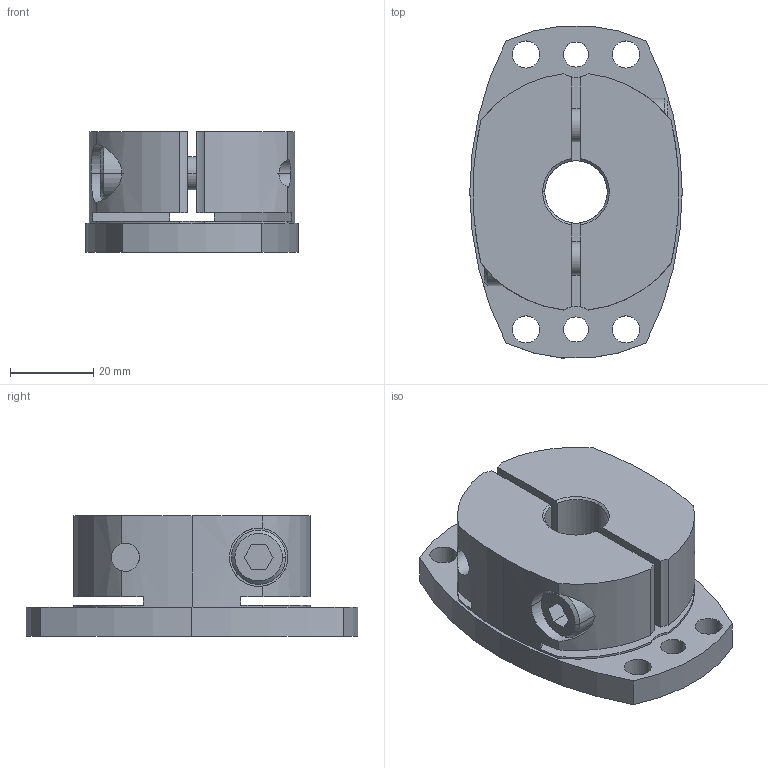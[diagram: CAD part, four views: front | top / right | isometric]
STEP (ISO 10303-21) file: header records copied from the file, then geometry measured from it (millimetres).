
FILE_DESCRIPTION((''),'2;1');
FILE_NAME('SHDB-80B-15.stp','2026-01-28T08:22:43',(''),(''),'AutoCAD STEP 2000i','AutoCAD 2000i',', , ');
FILE_SCHEMA(('CONFIG_CONTROL_DESIGN'));
Length unit declared in the file: millimetre
Products named in the file (2): SHDB-80B-12; 忣兜1
Assembly tree (1 placements, depth 2):
  SHDB-80B-12
    忣兜1
Bounding box: 51 x 79.7 x 29 mm (x, y, z)
Volume: 63887.3 mm3; surface area: 20030.5 mm2
Topology: 1 solids, 1 shells, 102 faces, 280 edges, 184 vertices
Faces by surface type: cylinder 58, plane 34, cone 10
Entity records: 3707 total; most frequent: CARTESIAN_POINT 880, DIRECTION 602, ORIENTED_EDGE 560, EDGE_CURVE 280, AXIS2_PLACEMENT_3D 238, VERTEX_POINT 184, CIRCLE 134, VECTOR 126
